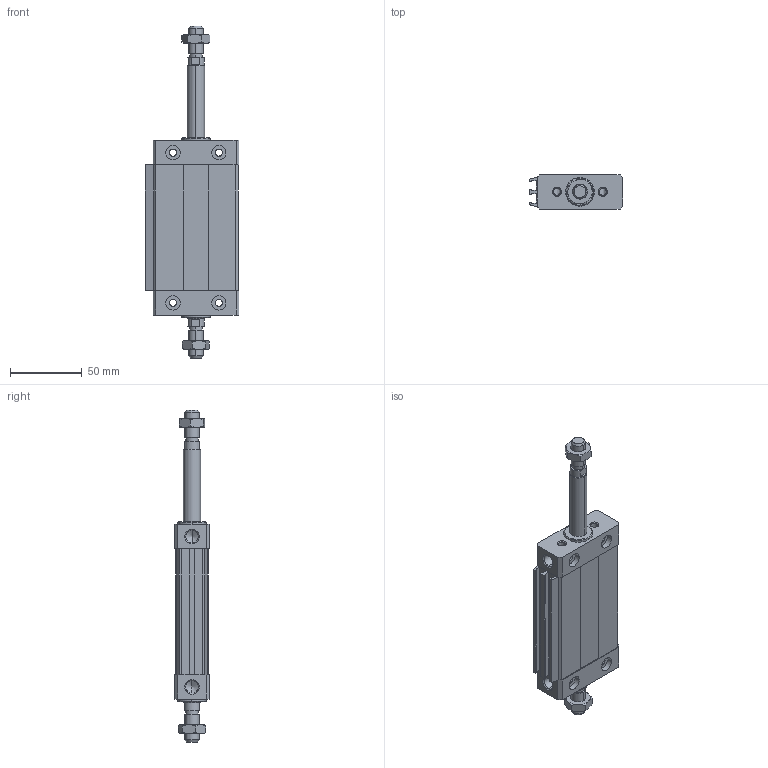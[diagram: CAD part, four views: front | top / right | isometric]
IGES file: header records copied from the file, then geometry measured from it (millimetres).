
Global section: file name: No Iges File Name specified; native system: Autodesk Inventor 2011; preprocessor: AutoDesk Inventor Iges Exporter R2011; author: airolcr1; date: 20101213.152945; units: millimetre
Bounding box: 65.5 x 24 x 232 mm (x, y, z)
Volume: 145279 mm3; surface area: 60909.9 mm2
Topology: 6 solids, 6 shells, 274 faces, 646 edges, 392 vertices
Faces by surface type: bspline 110, plane 96, cone 36, cylinder 18, revolution 14
